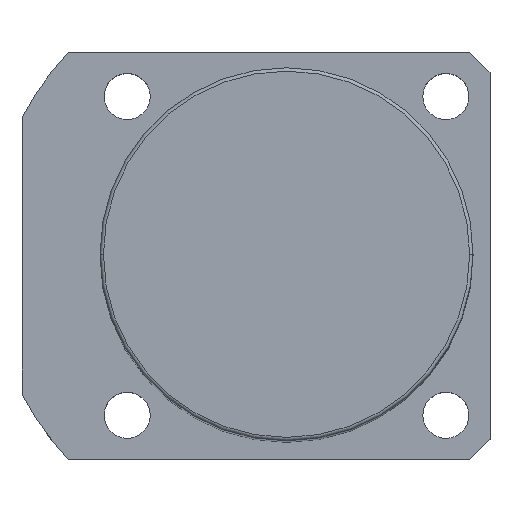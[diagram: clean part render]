
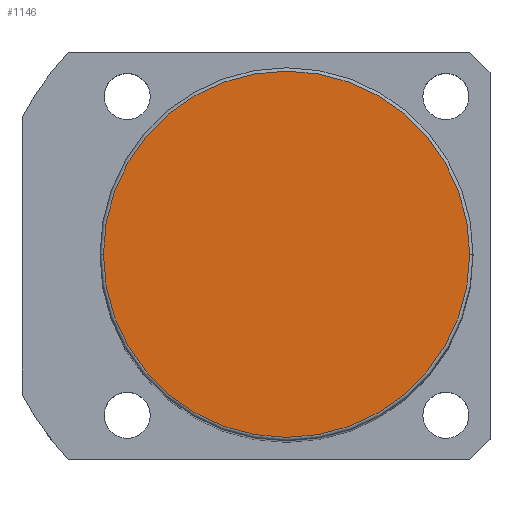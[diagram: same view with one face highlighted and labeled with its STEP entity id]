
A CAD part, top view. The second image highlights one B-rep face of the part: STEP entity #1146.
In plain terms, the highlighted planar face has unit normal (0, 0, 1).
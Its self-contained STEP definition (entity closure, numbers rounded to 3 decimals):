
#83 = DIRECTION ( 'NONE',  ( 0., 0., 1. ) ) ;
#123 = CARTESIAN_POINT ( 'NONE',  ( -27., 0., 146. ) ) ;
#156 = VERTEX_POINT ( 'NONE', #169 ) ;
#169 = CARTESIAN_POINT ( 'NONE',  ( 27., 0., 146. ) ) ;
#181 = EDGE_CURVE ( 'NONE', #156, #1674, #1613, .T. ) ;
#265 = ORIENTED_EDGE ( 'NONE', *, *, #181, .T. ) ;
#297 = EDGE_CURVE ( 'NONE', #1674, #156, #1024, .T. ) ;
#537 = CARTESIAN_POINT ( 'NONE',  ( 0., 0., 146. ) ) ;
#615 = EDGE_LOOP ( 'NONE', ( #265, #1015 ) ) ;
#934 = DIRECTION ( 'NONE',  ( 1., 0., 0. ) ) ;
#960 = DIRECTION ( 'NONE',  ( 1., 0., 0. ) ) ;
#965 = PLANE ( 'NONE',  #1338 ) ;
#1015 = ORIENTED_EDGE ( 'NONE', *, *, #297, .T. ) ;
#1024 = CIRCLE ( 'NONE', #1916, 27. ) ;
#1131 = FACE_OUTER_BOUND ( 'NONE', #615, .T. ) ;
#1146 = ADVANCED_FACE ( 'NONE', ( #1131 ), #965, .T. ) ;
#1315 = AXIS2_PLACEMENT_3D ( 'NONE', #1689, #1855, #934 ) ;
#1338 = AXIS2_PLACEMENT_3D ( 'NONE', #1727, #83, #1581 ) ;
#1416 = DIRECTION ( 'NONE',  ( 0., 0., 1. ) ) ;
#1581 = DIRECTION ( 'NONE',  ( 1., 0., 0. ) ) ;
#1613 = CIRCLE ( 'NONE', #1315, 27. ) ;
#1674 = VERTEX_POINT ( 'NONE', #123 ) ;
#1689 = CARTESIAN_POINT ( 'NONE',  ( 0., 0., 146. ) ) ;
#1727 = CARTESIAN_POINT ( 'NONE',  ( 0., 0., 146. ) ) ;
#1855 = DIRECTION ( 'NONE',  ( 0., 0., 1. ) ) ;
#1916 = AXIS2_PLACEMENT_3D ( 'NONE', #537, #1416, #960 ) ;
